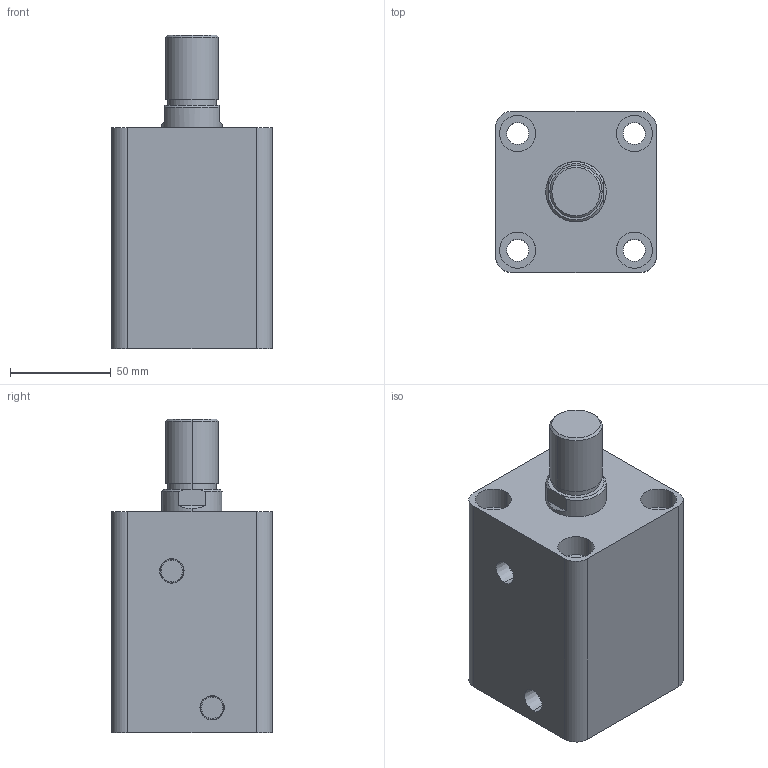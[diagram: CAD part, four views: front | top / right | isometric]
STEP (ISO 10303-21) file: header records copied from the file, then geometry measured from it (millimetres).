
FILE_DESCRIPTION (( 'STEP AP203' ), '1' );
FILE_NAME ('HTB-SD50-50W.STEP', '2019-10-07T07:09:54', ( '微软用户' ), ( '微软中国' ), 'SwSTEP 2.0', 'SolidWorks 2012', '' );
FILE_SCHEMA (( 'CONFIG_CONTROL_DESIGN' ));
Length unit declared in the file: millimetre
Products named in the file (3): HTB-SD50-50W; HTB-SD50-50W活塞杆; HTB-SD50-50掛极
Assembly tree (2 placements, depth 2):
  HTB-SD50-50W
    HTB-SD50-50掛极
    HTB-SD50-50W活塞杆
Bounding box: 80 x 80 x 156 mm (x, y, z)
Volume: 602684.7 mm3; surface area: 98304.4 mm2
Topology: 2 solids, 2 shells, 87 faces, 190 edges, 124 vertices
Faces by surface type: cylinder 44, plane 29, cone 8, torus 6
Entity records: 2761 total; most frequent: DIRECTION 478, CARTESIAN_POINT 434, ORIENTED_EDGE 380, AXIS2_PLACEMENT_3D 204, EDGE_CURVE 190, VERTEX_POINT 124, EDGE_LOOP 112, CIRCLE 112
